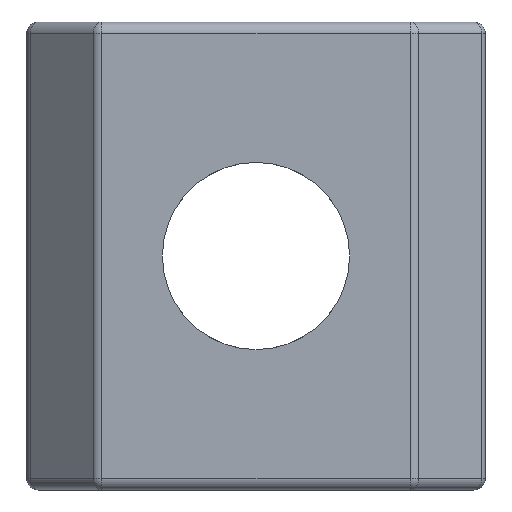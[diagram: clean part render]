
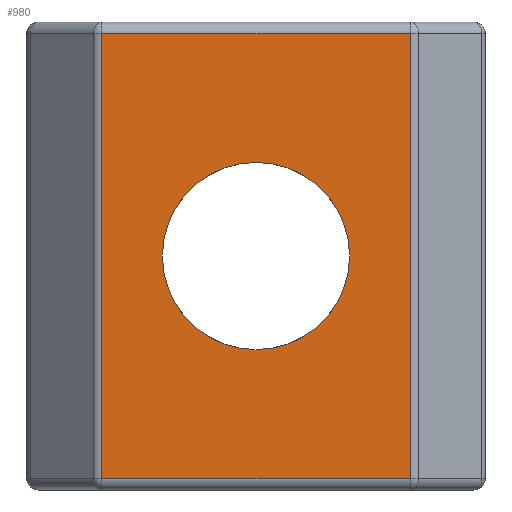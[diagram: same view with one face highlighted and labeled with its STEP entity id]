
A CAD part, front view. The second image highlights one B-rep face of the part: STEP entity #980.
In plain terms, the highlighted planar face has unit normal (0, -1, 0).
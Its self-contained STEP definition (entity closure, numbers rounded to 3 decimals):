
#33 = FACE_BOUND ( 'NONE', #2150, .T. ) ;
#69 = ORIENTED_EDGE ( 'NONE', *, *, #913, .T. ) ;
#72 = CARTESIAN_POINT ( 'NONE',  ( -6.294, -2.995, -10. ) ) ;
#86 = CARTESIAN_POINT ( 'NONE',  ( -6.397, -2.995, -10. ) ) ;
#133 = VECTOR ( 'NONE', #945, 1000. ) ;
#246 = DIRECTION ( 'NONE',  ( -1., 0., 0. ) ) ;
#271 = CARTESIAN_POINT ( 'NONE',  ( -2.997, -2.995, -5. ) ) ;
#283 = VERTEX_POINT ( 'NONE', #1210 ) ;
#387 = CARTESIAN_POINT ( 'NONE',  ( 0.299, -2.995, -0.25 ) ) ;
#672 = AXIS2_PLACEMENT_3D ( 'NONE', #271, #1267, #1957 ) ;
#699 = CARTESIAN_POINT ( 'NONE',  ( -4.997, -2.995, -5. ) ) ;
#714 = EDGE_CURVE ( 'NONE', #283, #1053, #878, .T. ) ;
#744 = CARTESIAN_POINT ( 'NONE',  ( 0.299, -2.995, -9.75 ) ) ;
#834 = ORIENTED_EDGE ( 'NONE', *, *, #1810, .T. ) ;
#878 = LINE ( 'NONE', #1620, #133 ) ;
#908 = ORIENTED_EDGE ( 'NONE', *, *, #1323, .T. ) ;
#913 = EDGE_CURVE ( 'NONE', #1053, #1485, #1912, .T. ) ;
#919 = CARTESIAN_POINT ( 'NONE',  ( -0.997, -2.995, -5. ) ) ;
#945 = DIRECTION ( 'NONE',  ( 1., 0., 0. ) ) ;
#980 = ADVANCED_FACE ( 'NONE', ( #1729, #33 ), #1403, .T. ) ;
#993 = ORIENTED_EDGE ( 'NONE', *, *, #714, .T. ) ;
#1025 = CARTESIAN_POINT ( 'NONE',  ( 0.299, -2.995, -10. ) ) ;
#1053 = VERTEX_POINT ( 'NONE', #744 ) ;
#1120 = LINE ( 'NONE', #1405, #1643 ) ;
#1210 = CARTESIAN_POINT ( 'NONE',  ( -6.294, -2.995, -9.75 ) ) ;
#1216 = DIRECTION ( 'NONE',  ( 0., 0., 1. ) ) ;
#1220 = DIRECTION ( 'NONE',  ( 0., 0., -1. ) ) ;
#1267 = DIRECTION ( 'NONE',  ( 0., 1., 0. ) ) ;
#1323 = EDGE_CURVE ( 'NONE', #1717, #2095, #1451, .T. ) ;
#1324 = DIRECTION ( 'NONE',  ( 0., 0., -1. ) ) ;
#1336 = CARTESIAN_POINT ( 'NONE',  ( -6.294, -2.995, -0.25 ) ) ;
#1377 = EDGE_LOOP ( 'NONE', ( #834, #1738, #993, #69 ) ) ;
#1403 = PLANE ( 'NONE',  #2044 ) ;
#1405 = CARTESIAN_POINT ( 'NONE',  ( -6.397, -2.995, -0.25 ) ) ;
#1426 = LINE ( 'NONE', #72, #2134 ) ;
#1451 = CIRCLE ( 'NONE', #1701, 2. ) ;
#1465 = ORIENTED_EDGE ( 'NONE', *, *, #2069, .T. ) ;
#1485 = VERTEX_POINT ( 'NONE', #387 ) ;
#1509 = DIRECTION ( 'NONE',  ( 0., 1., 0. ) ) ;
#1573 = VERTEX_POINT ( 'NONE', #1336 ) ;
#1582 = DIRECTION ( 'NONE',  ( 0., -1., 0. ) ) ;
#1620 = CARTESIAN_POINT ( 'NONE',  ( -6.397, -2.995, -9.75 ) ) ;
#1643 = VECTOR ( 'NONE', #246, 1000. ) ;
#1688 = CARTESIAN_POINT ( 'NONE',  ( -2.997, -2.995, -5. ) ) ;
#1701 = AXIS2_PLACEMENT_3D ( 'NONE', #1688, #1509, #1324 ) ;
#1717 = VERTEX_POINT ( 'NONE', #699 ) ;
#1721 = CIRCLE ( 'NONE', #672, 2. ) ;
#1729 = FACE_OUTER_BOUND ( 'NONE', #1377, .T. ) ;
#1738 = ORIENTED_EDGE ( 'NONE', *, *, #1991, .T. ) ;
#1810 = EDGE_CURVE ( 'NONE', #1485, #1573, #1120, .T. ) ;
#1912 = LINE ( 'NONE', #1025, #2034 ) ;
#1914 = DIRECTION ( 'NONE',  ( 0., 0., -1. ) ) ;
#1957 = DIRECTION ( 'NONE',  ( 0., 0., -1. ) ) ;
#1991 = EDGE_CURVE ( 'NONE', #1573, #283, #1426, .T. ) ;
#2034 = VECTOR ( 'NONE', #1216, 1000. ) ;
#2044 = AXIS2_PLACEMENT_3D ( 'NONE', #86, #1582, #1914 ) ;
#2069 = EDGE_CURVE ( 'NONE', #2095, #1717, #1721, .T. ) ;
#2095 = VERTEX_POINT ( 'NONE', #919 ) ;
#2134 = VECTOR ( 'NONE', #1220, 1000. ) ;
#2150 = EDGE_LOOP ( 'NONE', ( #908, #1465 ) ) ;
